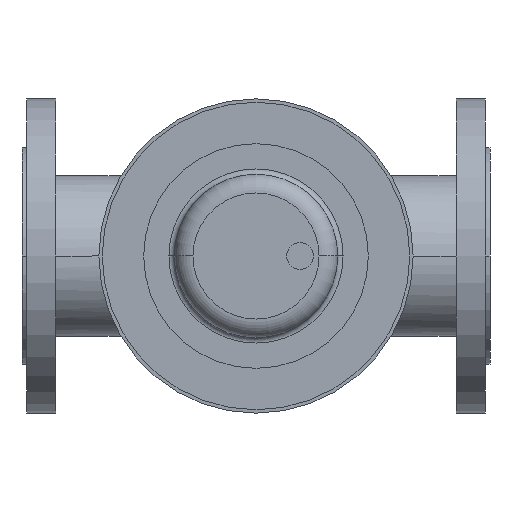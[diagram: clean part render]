
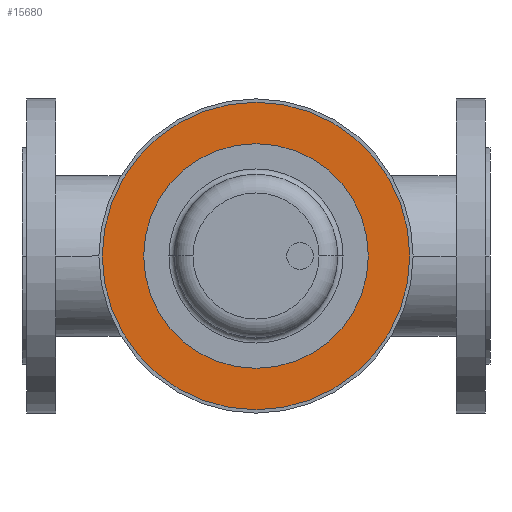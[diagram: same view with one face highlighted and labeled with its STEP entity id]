
A CAD part, front view. The second image highlights one B-rep face of the part: STEP entity #15680.
In plain terms, the highlighted planar face has unit normal (0, -1, 0).
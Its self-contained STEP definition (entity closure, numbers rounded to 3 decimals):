
#13750=CARTESIAN_POINT('',(60.,-420.88,0.));
#13760=VERTEX_POINT('',#13750);
#13790=CARTESIAN_POINT('',(175.,-420.88,0.));
#13800=DIRECTION('',(0.,1.,0.));
#13810=DIRECTION('',(1.,0.,0.));
#13820=AXIS2_PLACEMENT_3D('',#13790,#13800,#13810);
#13830=CIRCLE('',#13820,115.);
#13840=CARTESIAN_POINT('',(290.,-420.88,0.));
#13850=VERTEX_POINT('',#13840);
#13860=EDGE_CURVE('',#13850,#13760,#13830,.T.);
#14140=CARTESIAN_POINT('',(215.,-420.88,0.));
#14150=VERTEX_POINT('',#14140);
#14230=CARTESIAN_POINT('',(135.,-420.88,0.));
#14240=VERTEX_POINT('',#14230);
#14270=CARTESIAN_POINT('',(175.,-420.88,0.));
#14280=DIRECTION('',(0.,1.,0.));
#14290=DIRECTION('',(1.,0.,0.));
#14300=AXIS2_PLACEMENT_3D('',#14270,#14280,#14290);
#14310=CIRCLE('',#14300,40.);
#14320=EDGE_CURVE('',#14240,#14150,#14310,.T.);
#15530=CARTESIAN_POINT('',(252.5,-420.88,0.));
#15540=DIRECTION('',(0.,-1.,0.));
#15550=DIRECTION('',(-1.,0.,0.));
#15560=AXIS2_PLACEMENT_3D('',#15530,#15540,#15550);
#15570=PLANE('',#15560);
#15580=EDGE_CURVE('',#13760,#13850,#13830,.T.);
#15590=ORIENTED_EDGE('',*,*,#15580,.F.);
#15600=ORIENTED_EDGE('',*,*,#13860,.F.);
#15610=EDGE_LOOP('',(#15600,#15590));
#15620=FACE_OUTER_BOUND('',#15610,.T.);
#15630=EDGE_CURVE('',#14150,#14240,#14310,.T.);
#15640=ORIENTED_EDGE('',*,*,#15630,.T.);
#15650=ORIENTED_EDGE('',*,*,#14320,.T.);
#15660=EDGE_LOOP('',(#15650,#15640));
#15670=FACE_BOUND('',#15660,.T.);
#15680=ADVANCED_FACE('',(#15620,#15670),#15570,.T.);
